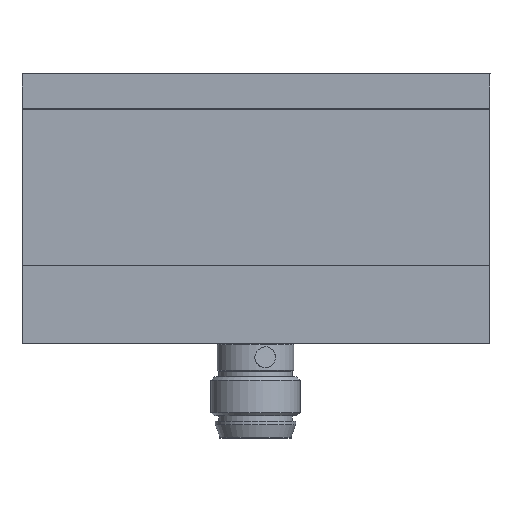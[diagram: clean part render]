
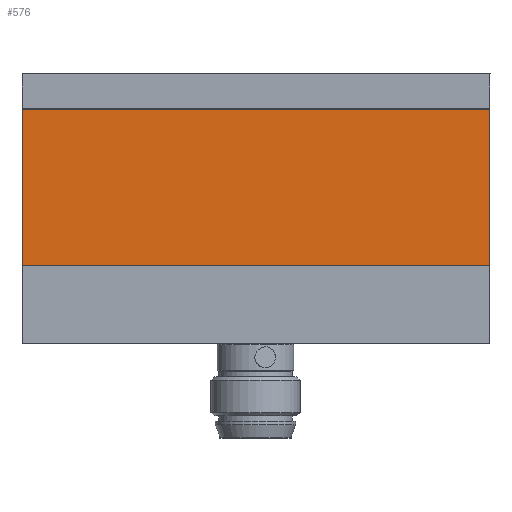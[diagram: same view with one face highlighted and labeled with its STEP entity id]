
A CAD part, front view. The second image highlights one B-rep face of the part: STEP entity #576.
In plain terms, the highlighted planar face has unit normal (0, -1, 0).
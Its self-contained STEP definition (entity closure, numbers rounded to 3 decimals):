
#576=ADVANCED_FACE('16:1689',(#1410),#1411,.T.);
#1410=FACE_OUTER_BOUND('',#2577,.T.);
#1411=PLANE('',#2578);
#2577=EDGE_LOOP('',(#4012,#4013,#4014,#4015));
#2578=AXIS2_PLACEMENT_3D('',#4016,#4017,#4018);
#4012=ORIENTED_EDGE('',*,*,#7109,.T.);
#4013=ORIENTED_EDGE('',*,*,#7077,.T.);
#4014=ORIENTED_EDGE('',*,*,#7110,.F.);
#4015=ORIENTED_EDGE('',*,*,#7051,.F.);
#4016=CARTESIAN_POINT('',(0.,-16.71,14.0));
#4017=DIRECTION('',(0.,-1.0,0.));
#4018=DIRECTION('',(-1.0,0.,0.));
#7051=EDGE_CURVE('16:1860',#8382,#8384,#8385,.T.);
#7077=EDGE_CURVE('16:1854',#8419,#8423,#8425,.F.);
#7109=EDGE_CURVE('16:1848',#8382,#8419,#8461,.T.);
#7110=EDGE_CURVE('16:1857',#8384,#8423,#8462,.F.);
#8382=VERTEX_POINT('',#10353);
#8384=VERTEX_POINT('',#10356);
#8385=LINE('',#10357,#10358);
#8419=VERTEX_POINT('',#10404);
#8423=VERTEX_POINT('',#10410);
#8425=LINE('',#10413,#10414);
#8461=LINE('',#10457,#10458);
#8462=LINE('',#10459,#10460);
#10353=CARTESIAN_POINT('',(-20.98,-16.71,14.0));
#10356=CARTESIAN_POINT('',(21.0,-16.71,14.0));
#10357=CARTESIAN_POINT('',(0.,-16.71,14.0));
#10358=VECTOR('',#14016,1.0);
#10404=CARTESIAN_POINT('',(-20.98,-16.71,0.));
#10410=CARTESIAN_POINT('',(21.0,-16.71,0.));
#10413=CARTESIAN_POINT('',(0.005,-16.71,0.));
#10414=VECTOR('',#14044,1.0);
#10457=CARTESIAN_POINT('',(-20.98,-16.71,14.0));
#10458=VECTOR('',#14082,1.);
#10459=CARTESIAN_POINT('',(21.0,-16.71,14.0));
#10460=VECTOR('',#14083,1.);
#14016=DIRECTION('',(1.0,0.,0.0));
#14044=DIRECTION('',(-1.0,0.,0.0));
#14082=DIRECTION('',(0.,0.,-1.0));
#14083=DIRECTION('',(0.,0.,1.0));
